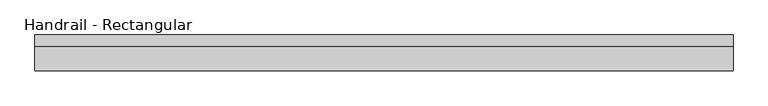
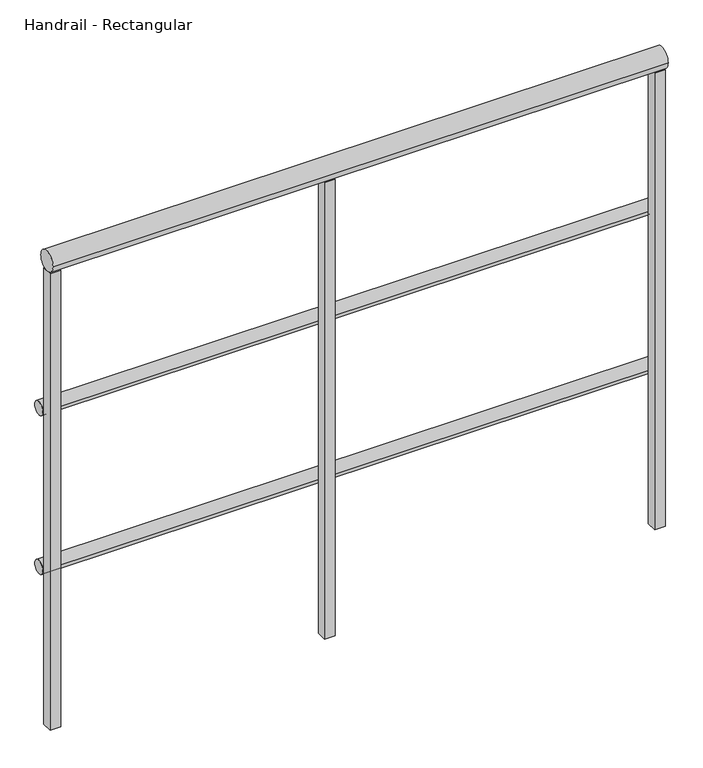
"""IFC4 building model written with IfcOpenShell, lengths in millimetres: railing geometry, Handrail - Rectangular."""

import ifcopenshell
import ifcopenshell.guid

model = None  # the IFC model being written
_history = None  # IfcOwnerHistory: only IFC2X3 demands one
_inside = {}  # id of a spatial element -> (the spatial element, [elements in it])
_under = {}  # id of a project, library or spatial element -> (it, [spatial elements below it])
_declared = {}  # id of a project -> (the project, [libraries it declares])
_typed = {}  # id of a type object -> (the type object, [elements of that type])
_made_of = {}  # id of a material, layer set ... -> (it, [elements and type objects made of it])


def new_model(schema):
    """Start an empty IFC model of exactly this schema.

    Asked for "IFC4X3", IfcOpenShell would pick the latest addendum, in which some entities
    have other attributes; the version numbers below select the first issue.
    IFC2X3 requires an IfcOwnerHistory on every rooted entity: one is made here for all.
    """
    global model, _history
    if schema == "IFC4X3":
        model = ifcopenshell.file(schema_version=(4, 3, 0, 0))
    else:
        model = ifcopenshell.file(schema=schema)
    _inside.clear()
    _under.clear()
    _declared.clear()
    _typed.clear()
    _made_of.clear()
    _history = None
    if model.schema == "IFC2X3":
        org = make("IfcOrganization", Name="unknown")
        user = make(
            "IfcPersonAndOrganization",
            ThePerson=make("IfcPerson", FamilyName="unknown"),
            TheOrganization=org,
        )
        app = make(
            "IfcApplication",
            ApplicationDeveloper=org,
            Version="unknown",
            ApplicationFullName="unknown",
            ApplicationIdentifier="unknown",
        )
        _history = make(
            "IfcOwnerHistory",
            OwningUser=user,
            OwningApplication=app,
            ChangeAction="ADDED",
            CreationDate=0,
        )
    return model


def make(cls, **values):
    """One entity of the class cls with the attributes given. An attribute that is None is left unset."""
    return model.create_entity(
        cls, **{name: value for name, value in values.items() if value is not None}
    )


def rooted(cls, **values):
    """An entity with a GlobalId (a new one), such as an element, a storey or a relation."""
    return make(cls, GlobalId=ifcopenshell.guid.new(), OwnerHistory=_history, **values)


def si_unit(unit_type, name, prefix=None):
    """IfcSIUnit, for example si_unit("LENGTHUNIT", "METRE", prefix="MILLI")."""
    return make("IfcSIUnit", UnitType=unit_type, Prefix=prefix, Name=name)


def assignment(units):
    """IfcUnitAssignment: the units of a project."""
    return None if units is None else make("IfcUnitAssignment", Units=units)


def point(xyz):
    """IfcCartesianPoint."""
    return None if xyz is None else make("IfcCartesianPoint", Coordinates=xyz)


def direction(xyz):
    """IfcDirection."""
    return None if xyz is None else make("IfcDirection", DirectionRatios=xyz)


def frame(location, z_axis=None, x_axis=None):
    """IfcAxis2Placement3D, a coordinate frame: its origin and axes. An axis left out is left unset."""
    return make(
        "IfcAxis2Placement3D",
        Location=point(location),
        Axis=direction(z_axis),
        RefDirection=direction(x_axis),
    )


def frame_2d(location, x_axis=None):
    """IfcAxis2Placement2D, a coordinate frame in the plane: its origin and x axis."""
    return make(
        "IfcAxis2Placement2D", Location=point(location), RefDirection=direction(x_axis)
    )


def origin():
    """The frame at (0, 0, 0) with its axes left unset."""
    return frame((0.0, 0.0, 0.0))


def place(relative_to, where):
    """IfcLocalPlacement: puts the frame where relative to a parent placement (None: the world)."""
    return make(
        "IfcLocalPlacement", PlacementRelTo=relative_to, RelativePlacement=where
    )


def context(
    kind, dimensions, precision=None, world=None, true_north=None, identifier=None
):
    """IfcGeometricRepresentationContext, for example the 3D "Model" context."""
    return make(
        "IfcGeometricRepresentationContext",
        ContextIdentifier=identifier,
        ContextType=kind,
        CoordinateSpaceDimension=dimensions,
        Precision=precision,
        WorldCoordinateSystem=world,
        TrueNorth=true_north,
    )


def project(units=None, contexts=None):
    """IfcProject with its units and contexts."""
    return rooted(
        "IfcProject",
        Name="project",
        RepresentationContexts=contexts,
        UnitsInContext=assignment(units),
    )


def spatial(cls, under=None, at=None, **own):
    """A site, building, storey or space (cls), placed at a placement, below another one or the project."""
    s = rooted(cls, ObjectPlacement=at, **own)
    if under is not None:
        _under.setdefault(under.id(), (under, []))[1].append(s)
    return s


def polyline(points):
    """IfcPolyline through the points."""
    return make("IfcPolyline", Points=[point(p) for p in points])


def circle_curve(where, radius):
    """IfcCircle in the frame where."""
    return make("IfcCircle", Position=where, Radius=radius)


def trimmed(basis, trim1, trim2, sense, master):
    """IfcTrimmedCurve: the piece of a basis curve between two trims."""
    return make(
        "IfcTrimmedCurve",
        BasisCurve=basis,
        Trim1=trim1,
        Trim2=trim2,
        SenseAgreement=sense,
        MasterRepresentation=master,
    )


def segment(curve, same_sense, transition):
    """IfcCompositeCurveSegment."""
    return make(
        "IfcCompositeCurveSegment",
        Transition=transition,
        SameSense=same_sense,
        ParentCurve=curve,
    )


def composite_curve(segments, self_intersect=None):
    """IfcCompositeCurve: segments joined end to end."""
    return make("IfcCompositeCurve", Segments=segments, SelfIntersect=self_intersect)


def outline(outer, holes=None, kind="AREA"):
    """IfcArbitraryClosedProfileDef: a profile drawn as a closed curve; with holes, ...WithVoids."""
    if holes is None:
        return make("IfcArbitraryClosedProfileDef", ProfileType=kind, OuterCurve=outer)
    return make(
        "IfcArbitraryProfileDefWithVoids",
        ProfileType=kind,
        OuterCurve=outer,
        InnerCurves=holes,
    )


def extrude(swept, where, along, depth):
    """IfcExtrudedAreaSolid: the profile swept, set in the frame where, extruded along a direction by depth."""
    return make(
        "IfcExtrudedAreaSolid",
        SweptArea=swept,
        Position=where,
        ExtrudedDirection=direction(along),
        Depth=depth,
    )


def shape(context_of_items, identifier, shape_type, items):
    """IfcShapeRepresentation: the items that make up one representation, for example the "Body"."""
    return make(
        "IfcShapeRepresentation",
        ContextOfItems=context_of_items,
        RepresentationIdentifier=identifier,
        RepresentationType=shape_type,
        Items=items,
    )


def source(mapping_origin, context_of_items, identifier, shape_type, items):
    """IfcRepresentationMap: a shape defined once, which mapped items show again and again."""
    return make(
        "IfcRepresentationMap",
        MappingOrigin=mapping_origin,
        MappedRepresentation=shape(context_of_items, identifier, shape_type, items),
    )


def transform(
    local_origin,
    x_axis=None,
    y_axis=None,
    z_axis=None,
    scale=None,
    scale2=None,
    scale3=None,
    uniform=True,
):
    """IfcCartesianTransformationOperator3D, or its non-uniform kind. x_axis, y_axis, z_axis: its Axis1, 2, 3."""
    if uniform:
        return make(
            "IfcCartesianTransformationOperator3D",
            Axis1=direction(x_axis),
            Axis2=direction(y_axis),
            LocalOrigin=point(local_origin),
            Scale=scale,
            Axis3=direction(z_axis),
        )
    return make(
        "IfcCartesianTransformationOperator3DnonUniform",
        Axis1=direction(x_axis),
        Axis2=direction(y_axis),
        LocalOrigin=point(local_origin),
        Scale=scale,
        Axis3=direction(z_axis),
        Scale2=scale2,
        Scale3=scale3,
    )


def mapped(mapping_source, mapping_target):
    """IfcMappedItem: shows the shape of a source again, moved by a transform."""
    return make(
        "IfcMappedItem", MappingSource=mapping_source, MappingTarget=mapping_target
    )


def made_of(thing, what):
    """Note that an element or type object is made of a material, layer set ...; save() writes the relation."""
    if what is not None:
        _made_of.setdefault(what.id(), (what, []))[1].append(thing)
    return thing


def element(
    cls,
    number,
    at=None,
    inside=None,
    cuts=None,
    type_object=None,
    material=None,
    context=None,
    identifier="Body",
    shape_type=None,
    held_by="IfcProductDefinitionShape",
    body=None,
    shapes=None,
    **own,
):
    """One element of the class cls, such as IfcWall. Its Tag is "e" and its number.

    at: its placement. inside: the storey or other place that contains it. cuts: it is an
    opening in that element (IfcRelVoidsElement). A single representation is given by context,
    identifier, shape_type and body (its items); several are given by shapes. held_by: the class
    of the entity that holds the representations. save() writes the other relations.
    """
    e = rooted(cls, Tag="e%d" % number, ObjectPlacement=at, **own)
    if body is not None:
        shapes = [shape(context, identifier, shape_type, body)]
    if shapes is not None:
        e.Representation = make(held_by, Representations=shapes)
    if inside is not None:
        _inside.setdefault(inside.id(), (inside, []))[1].append(e)
    if cuts is not None:
        rooted(
            "IfcRelVoidsElement", RelatingBuildingElement=cuts, RelatedOpeningElement=e
        )
    if type_object is not None:
        _typed.setdefault(type_object.id(), (type_object, []))[1].append(e)
    return made_of(e, material)


def aggregate(whole, parts):
    """IfcRelAggregates: a whole, such as a stair, and the parts it consists of."""
    return rooted("IfcRelAggregates", RelatingObject=whole, RelatedObjects=parts)


def save(model, path):
    """Write the relations noted so far, then the file.

    IfcRelAggregates (storeys below a building ...), IfcRelContainedInSpatialStructure (elements
    in a storey), IfcRelDefinesByType, IfcRelAssociatesMaterial and IfcRelDeclares: one each for
    every whole, place, type object, material and project.
    """
    for whole, parts in _under.values():
        aggregate(whole, parts)
    for where, things in _inside.values():
        rooted(
            "IfcRelContainedInSpatialStructure",
            RelatedElements=things,
            RelatingStructure=where,
        )
    for kind, things in _typed.values():
        rooted("IfcRelDefinesByType", RelatedObjects=things, RelatingType=kind)
    for what, things in _made_of.values():
        rooted("IfcRelAssociatesMaterial", RelatedObjects=things, RelatingMaterial=what)
    for by, libraries in _declared.values():
        rooted("IfcRelDeclares", RelatingContext=by, RelatedDefinitions=libraries)
    model.write(path)


def handrail_rectangular_0f8d92d8(model_context):
    return source(origin(), model_context, "Body", "SweptSolid", [
        extrude(outline(composite_curve([segment(trimmed(circle_curve(frame_2d((-27958.5683133, 3644.9)), 12.7), [point((-27945.8683133, 3644.9))], [point((-27971.2683133, 3644.9))], False, "CARTESIAN"), True, "CONTINUOUS"), segment(trimmed(circle_curve(frame_2d((-27958.5683133, 3644.9)), 12.7), [point((-27971.2683133, 3644.9))], [point((-27945.8683133, 3644.9))], False, "CARTESIAN"), True, "CONTINUOUS")], self_intersect=False)), frame((976.3410437, 0.0, 0.0), z_axis=(1.0, 0.0, 0.0), x_axis=(0.0, 1.0, 0.0)), (0.0, 0.0, 1.0), 1117.6),
        extrude(outline(composite_curve([segment(trimmed(circle_curve(frame_2d((-27958.5683133, 3340.1)), 12.7), [point((-27945.8683133, 3340.1))], [point((-27971.2683133, 3340.1))], False, "CARTESIAN"), True, "CONTINUOUS"), segment(trimmed(circle_curve(frame_2d((-27958.5683133, 3340.1)), 12.7), [point((-27971.2683133, 3340.1))], [point((-27945.8683133, 3340.1))], False, "CARTESIAN"), True, "CONTINUOUS")], self_intersect=False)), frame((976.3410437, 0.0, 0.0), z_axis=(1.0, 0.0, 0.0), x_axis=(0.0, 1.0, 0.0)), (0.0, 0.0, 1.0), 1117.6),
        extrude(outline(composite_curve([segment(trimmed(circle_curve(frame_2d((-27983.9683133, 3943.35)), 19.05), [point((-27964.9183133, 3943.35))], [point((-28003.0183133, 3943.35))], False, "CARTESIAN"), True, "CONTINUOUS"), segment(trimmed(circle_curve(frame_2d((-27983.9683133, 3943.35)), 19.05), [point((-28003.0183133, 3943.35))], [point((-27964.9183133, 3943.35))], False, "CARTESIAN"), True, "CONTINUOUS")], self_intersect=False)), frame((976.3410437, 0.0, 0.0), z_axis=(1.0, 0.0, 0.0), x_axis=(0.0, 1.0, 0.0)), (0.0, 0.0, 1.0), 1117.6),
        extrude(outline(polyline([(1493.8660437, -27993.4933133), (1474.8160437, -27993.4933133), (1474.8160437, -27974.4433133), (1493.8660437, -27974.4433133), (1493.8660437, -27993.4933133)])), frame((0.0, 0.0, 3048.0), z_axis=(0.0, 0.0, 1.0), x_axis=(1.0, 0.0, 0.0)), (0.0, 0.0, 1.0), 876.3),
        extrude(outline(polyline([(995.3910437, -27993.4933133), (976.3410437, -27993.4933133), (976.3410437, -27974.4433133), (995.3910437, -27974.4433133), (995.3910437, -27993.4933133)])), frame((0.0, 0.0, 3048.0), z_axis=(0.0, 0.0, 1.0), x_axis=(1.0, 0.0, 0.0)), (0.0, 0.0, 1.0), 876.3),
        extrude(outline(polyline([(2093.9410437, -27993.4933133), (2074.8910437, -27993.4933133), (2074.8910437, -27974.4433133), (2093.9410437, -27974.4433133), (2093.9410437, -27993.4933133)])), frame((0.0, 0.0, 3048.0), z_axis=(0.0, 0.0, 1.0), x_axis=(1.0, 0.0, 0.0)), (0.0, 0.0, 1.0), 876.3),
    ])


if __name__ == "__main__":
    model = new_model("IFC4")
    model_context = context("Model", 3, world=origin())
    ifc_project = project(units=[si_unit("LENGTHUNIT", "METRE", prefix="MILLI")], contexts=[model_context])
    site = spatial("IfcSite", under=ifc_project)
    building = spatial("IfcBuilding", under=site)
    placement = place(None, origin())
    handrail_rectangular_shape = handrail_rectangular_0f8d92d8(model_context)
    element("IfcRailing", 1, ObjectType="Handrail - Rectangular", at=placement, inside=building, context=model_context, shape_type="MappedRepresentation", body=[
        mapped(handrail_rectangular_shape, transform((0.0, 0.0, 0.0), x_axis=(1.0, 0.0, 0.0), y_axis=(0.0, 1.0, 0.0), z_axis=(0.0, 0.0, 1.0))),
    ])
    save(model, "model.ifc")
